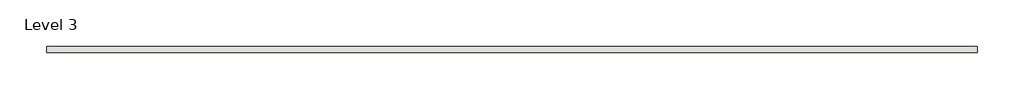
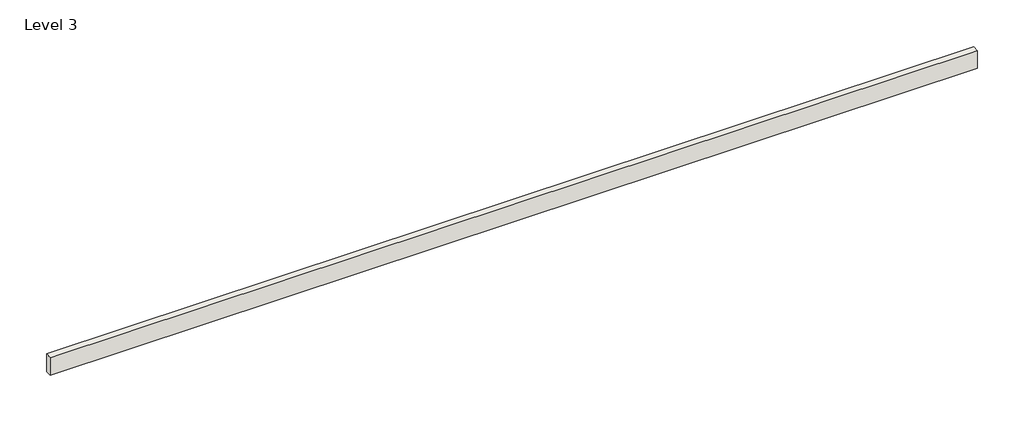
# One storey: 1 wall.
"""IFC4 building model written with IfcOpenShell, lengths in millimetres."""

from ifc_helpers import new_model, si_unit, point, frame, frame_2d, origin, place, context, project, spatial, polyline, circle_curve, trimmed, segment, composite_curve, outline, extrude, element, save

model = new_model("IFC4")

# Units and contexts
model_context = context("Model", 3, world=origin())
ifc_project = project(units=[si_unit("LENGTHUNIT", "METRE", prefix="MILLI")], contexts=[model_context])

# Site, building, storey
site = spatial("IfcSite", under=ifc_project)
building = spatial("IfcBuilding", under=site)
storey = spatial("IfcBuildingStorey", under=building, Name="Level 3", Elevation=7315.2)

# Wall
placement = place(None, origin())
element("IfcWall", 1, ObjectType="Exterior - EIFS on Mtl. Stud", at=placement, inside=storey, context=model_context, shape_type="SweptSolid", body=[
    extrude(outline(composite_curve([segment(polyline([(-2330.8524128, 8066.5094937), (-2330.8524128, 7315.2), (-2572.1524128, 7315.2), (-2572.1524128, 8041.8474028)]), True, "CONTINUOUS"), segment(trimmed(circle_curve(frame_2d((-1041.3166946, -5743.4275557)), 13870.0131102), [point((-2572.1524128, 8041.8474028))], [point((-2330.8524128, 8066.5094937))], False, "CARTESIAN"), True, "CONTINUOUS")], self_intersect=False)), frame((-7974.408315, 0.0, 0.0), z_axis=(1.0, 0.0, 0.0), x_axis=(0.0, 1.0, 0.0)), (0.0, 0.0, 1.0), 36243.1979245),
])

save(model, "model.ifc")
